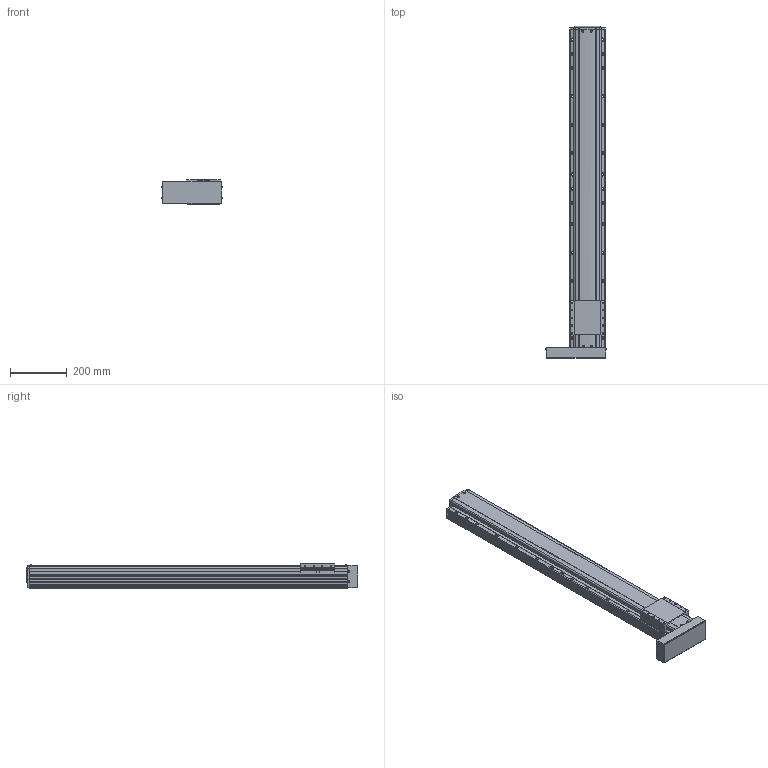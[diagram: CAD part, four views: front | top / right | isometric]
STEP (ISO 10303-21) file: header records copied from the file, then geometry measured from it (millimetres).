
FILE_DESCRIPTION(('STEP AP214'),'1');
FILE_NAME('Z:/Web/3D/PSA125/STP/PSA125-900 (3D)/PSA125ㅁㅁ-900PL.stp','2014-06-23T04:55:18',(' '),(' '),'Spatial InterOp 3D',' ',' ');
FILE_SCHEMA(('automotive_design'));
Length unit declared in the file: millimetre
Products named in the file (23): 스크루 : Round - M4.0 x 10.0; RRCV-PA120; SLIDE; BASE; FRCV-PA120-1(기준 뿔 제거); RR1500; 스크루 : Round - M4.0 x 6.0; 너트 : Square - M10.0 x 220.7419; BTCV - 60A; 스크루 : Round - M3.0 x 6.0
Bounding box: 212.13 x 1168.6 x 86 mm (x, y, z)
Volume: 10046947.1 mm3; surface area: 794830.4 mm2
Topology: 23 solids, 23 shells, 2054 faces, 5517 edges, 3498 vertices
Faces by surface type: plane 1066, cylinder 652, cone 236, sphere 44, bspline 31, torus 25
Entity records: 82354 total; most frequent: CARTESIAN_POINT 13836, DIRECTION 10921, ORIENTED_EDGE 10726, EDGE_CURVE 5363, AXIS2_PLACEMENT_3D 3700, LINE 3521, VECTOR 3521, VERTEX_POINT 3498
